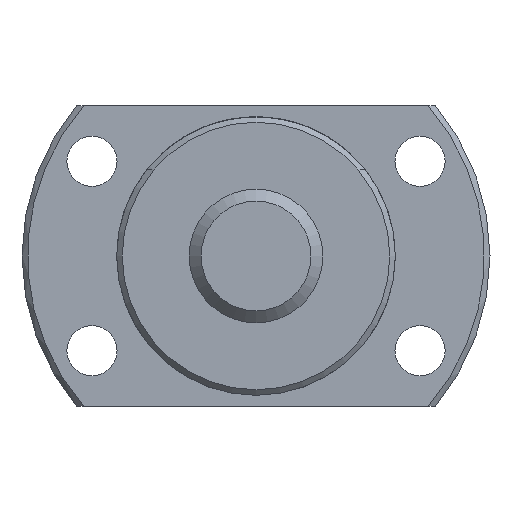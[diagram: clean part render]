
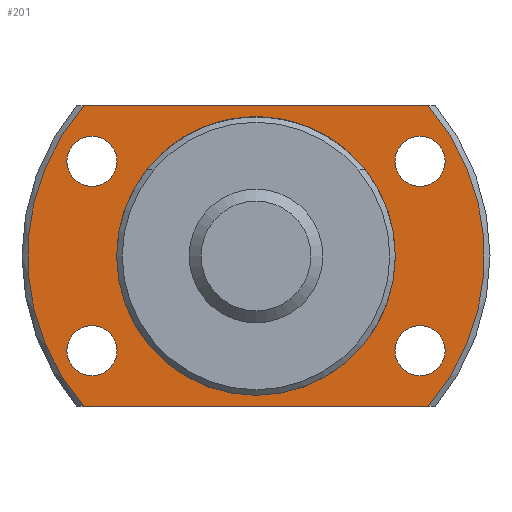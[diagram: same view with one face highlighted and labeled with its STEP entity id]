
A CAD part, left-side view. The second image highlights one B-rep face of the part: STEP entity #201.
In plain terms, the highlighted planar face has unit normal (-1, 0, 0).
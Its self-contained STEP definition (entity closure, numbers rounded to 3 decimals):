
#201 = ADVANCED_FACE( '', ( #310, #311, #312, #313, #314, #315 ), #316, .F. );
#310 = FACE_OUTER_BOUND( '', #455, .T. );
#311 = FACE_BOUND( '', #456, .T. );
#312 = FACE_BOUND( '', #457, .T. );
#313 = FACE_BOUND( '', #458, .T. );
#314 = FACE_BOUND( '', #459, .T. );
#315 = FACE_BOUND( '', #460, .T. );
#316 = PLANE( '', #461 );
#455 = EDGE_LOOP( '', ( #735, #736, #737, #738 ) );
#456 = EDGE_LOOP( '', ( #739 ) );
#457 = EDGE_LOOP( '', ( #740 ) );
#458 = EDGE_LOOP( '', ( #741 ) );
#459 = EDGE_LOOP( '', ( #742 ) );
#460 = EDGE_LOOP( '', ( #743 ) );
#461 = AXIS2_PLACEMENT_3D( '', #744, #745, #746 );
#735 = ORIENTED_EDGE( '', *, *, #940, .F. );
#736 = ORIENTED_EDGE( '', *, *, #995, .F. );
#737 = ORIENTED_EDGE( '', *, *, #1002, .F. );
#738 = ORIENTED_EDGE( '', *, *, #938, .F. );
#739 = ORIENTED_EDGE( '', *, *, #981, .T. );
#740 = ORIENTED_EDGE( '', *, *, #983, .T. );
#741 = ORIENTED_EDGE( '', *, *, #985, .T. );
#742 = ORIENTED_EDGE( '', *, *, #987, .T. );
#743 = ORIENTED_EDGE( '', *, *, #1003, .T. );
#744 = CARTESIAN_POINT( '', ( 19., 12.25, 0. ) );
#745 = DIRECTION( '', ( 1., 0., 0. ) );
#746 = DIRECTION( '', ( 0., 0., -1. ) );
#938 = EDGE_CURVE( '', #1066, #1068, #1069, .T. );
#940 = EDGE_CURVE( '', #1071, #1066, #1072, .T. );
#981 = EDGE_CURVE( '', #1143, #1143, #1144, .T. );
#983 = EDGE_CURVE( '', #1147, #1147, #1148, .T. );
#985 = EDGE_CURVE( '', #1151, #1151, #1152, .T. );
#987 = EDGE_CURVE( '', #1155, #1155, #1156, .T. );
#995 = EDGE_CURVE( '', #1169, #1071, #1171, .T. );
#1002 = EDGE_CURVE( '', #1068, #1169, #1179, .T. );
#1003 = EDGE_CURVE( '', #1180, #1180, #1181, .T. );
#1066 = VERTEX_POINT( '', #1273 );
#1068 = VERTEX_POINT( '', #1278 );
#1069 = LINE( '', #1279, #1280 );
#1071 = VERTEX_POINT( '', #1285 );
#1072 = CIRCLE( '', #1286, 20.5 );
#1143 = VERTEX_POINT( '', #1480 );
#1144 = CIRCLE( '', #1481, 2.25 );
#1147 = VERTEX_POINT( '', #1484 );
#1148 = CIRCLE( '', #1485, 2.25 );
#1151 = VERTEX_POINT( '', #1488 );
#1152 = CIRCLE( '', #1489, 2.25 );
#1155 = VERTEX_POINT( '', #1492 );
#1156 = CIRCLE( '', #1493, 2.25 );
#1169 = VERTEX_POINT( '', #1515 );
#1171 = LINE( '', #1520, #1521 );
#1179 = CIRCLE( '', #1529, 20.5 );
#1180 = VERTEX_POINT( '', #1530 );
#1181 = CIRCLE( '', #1531, 12.25 );
#1273 = CARTESIAN_POINT( '', ( 19., 15.427, 13.5 ) );
#1278 = CARTESIAN_POINT( '', ( 19., -15.427, 13.5 ) );
#1279 = CARTESIAN_POINT( '', ( 19., 26., 13.5 ) );
#1280 = VECTOR( '', #1642, 1000. );
#1285 = CARTESIAN_POINT( '', ( 19., 15.427, -13.5 ) );
#1286 = AXIS2_PLACEMENT_3D( '', #1643, #1644, #1645 );
#1480 = CARTESIAN_POINT( '', ( 19., -14.722, -10.75 ) );
#1481 = AXIS2_PLACEMENT_3D( '', #1713, #1714, #1715 );
#1484 = CARTESIAN_POINT( '', ( 19., -14.722, 6.25 ) );
#1485 = AXIS2_PLACEMENT_3D( '', #1719, #1720, #1721 );
#1488 = CARTESIAN_POINT( '', ( 19., 14.722, -10.75 ) );
#1489 = AXIS2_PLACEMENT_3D( '', #1725, #1726, #1727 );
#1492 = CARTESIAN_POINT( '', ( 19., 14.722, 6.25 ) );
#1493 = AXIS2_PLACEMENT_3D( '', #1731, #1732, #1733 );
#1515 = CARTESIAN_POINT( '', ( 19., -15.427, -13.5 ) );
#1520 = CARTESIAN_POINT( '', ( 19., -26., -13.5 ) );
#1521 = VECTOR( '', #1740, 1000. );
#1529 = AXIS2_PLACEMENT_3D( '', #1759, #1760, #1761 );
#1530 = CARTESIAN_POINT( '', ( 19., 0., -12.25 ) );
#1531 = AXIS2_PLACEMENT_3D( '', #1762, #1763, #1764 );
#1642 = DIRECTION( '', ( 0., -1., 0. ) );
#1643 = CARTESIAN_POINT( '', ( 19., 0., 0. ) );
#1644 = DIRECTION( '', ( 1., 0., 0. ) );
#1645 = DIRECTION( '', ( 0., 0., -1. ) );
#1713 = CARTESIAN_POINT( '', ( 19., -14.722, -8.5 ) );
#1714 = DIRECTION( '', ( 1., 0., 0. ) );
#1715 = DIRECTION( '', ( 0., 0., -1. ) );
#1719 = CARTESIAN_POINT( '', ( 19., -14.722, 8.5 ) );
#1720 = DIRECTION( '', ( 1., 0., 0. ) );
#1721 = DIRECTION( '', ( 0., 0., -1. ) );
#1725 = CARTESIAN_POINT( '', ( 19., 14.722, -8.5 ) );
#1726 = DIRECTION( '', ( 1., 0., 0. ) );
#1727 = DIRECTION( '', ( 0., 0., -1. ) );
#1731 = CARTESIAN_POINT( '', ( 19., 14.722, 8.5 ) );
#1732 = DIRECTION( '', ( 1., 0., 0. ) );
#1733 = DIRECTION( '', ( 0., 0., -1. ) );
#1740 = DIRECTION( '', ( 0., 1., 0. ) );
#1759 = CARTESIAN_POINT( '', ( 19., 0., 0. ) );
#1760 = DIRECTION( '', ( 1., 0., 0. ) );
#1761 = DIRECTION( '', ( 0., 0., -1. ) );
#1762 = CARTESIAN_POINT( '', ( 19., 0., 0. ) );
#1763 = DIRECTION( '', ( 1., 0., 0. ) );
#1764 = DIRECTION( '', ( 0., 0., -1. ) );
